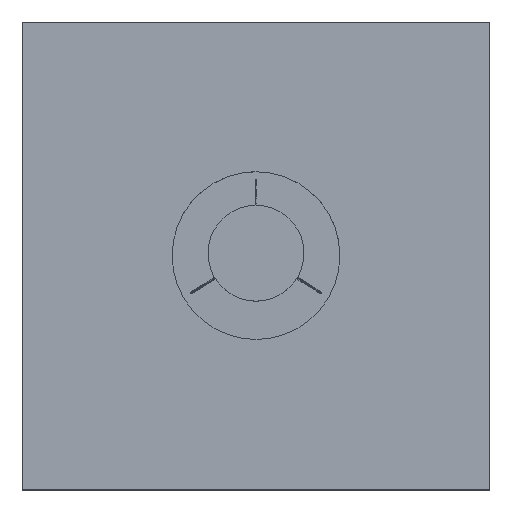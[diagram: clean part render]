
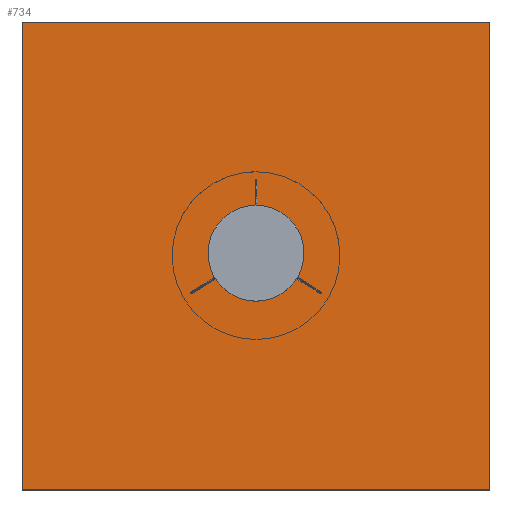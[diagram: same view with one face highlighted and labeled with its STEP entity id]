
A CAD part, top view. The second image highlights one B-rep face of the part: STEP entity #734.
In plain terms, the highlighted planar face has unit normal (0, 0, 1) as drawn and (0, 0, -1) by its records, which use the part's own axes.
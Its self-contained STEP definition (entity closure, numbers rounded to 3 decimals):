
#77=PLANE('',#870);
#113=LINE('',#2094,#142);
#114=LINE('',#2096,#143);
#115=LINE('',#2098,#144);
#116=LINE('',#2099,#145);
#142=VECTOR('',#1075,10.);
#143=VECTOR('',#1076,10.);
#144=VECTOR('',#1077,10.);
#145=VECTOR('',#1078,10.);
#221=FACE_OUTER_BOUND('',#290,.T.);
#290=EDGE_LOOP('',(#654,#655,#656,#657));
#406=VERTEX_POINT('',#2092);
#407=VERTEX_POINT('',#2093);
#408=VERTEX_POINT('',#2095);
#409=VERTEX_POINT('',#2097);
#490=EDGE_CURVE('',#406,#407,#113,.T.);
#491=EDGE_CURVE('',#407,#408,#114,.T.);
#492=EDGE_CURVE('',#408,#409,#115,.T.);
#493=EDGE_CURVE('',#409,#406,#116,.T.);
#654=ORIENTED_EDGE('',*,*,#490,.T.);
#655=ORIENTED_EDGE('',*,*,#491,.T.);
#656=ORIENTED_EDGE('',*,*,#492,.T.);
#657=ORIENTED_EDGE('',*,*,#493,.T.);
#734=ADVANCED_FACE('',(#221),#77,.F.);
#870=AXIS2_PLACEMENT_3D('',#2091,#1073,#1074);
#1073=DIRECTION('center_axis',(0.,0.,1.));
#1074=DIRECTION('ref_axis',(1.,0.,0.));
#1075=DIRECTION('',(1.,0.,0.));
#1076=DIRECTION('',(0.,-1.,0.));
#1077=DIRECTION('',(-1.,0.,0.));
#1078=DIRECTION('',(0.,1.,0.));
#2091=CARTESIAN_POINT('Origin',(0.,0.,
15.));
#2092=CARTESIAN_POINT('',(-195.,195.,15.));
#2093=CARTESIAN_POINT('',(195.,195.,15.));
#2094=CARTESIAN_POINT('',(-195.,195.,15.));
#2095=CARTESIAN_POINT('',(195.,-195.,15.));
#2096=CARTESIAN_POINT('',(195.,195.,15.));
#2097=CARTESIAN_POINT('',(-195.,-195.,15.));
#2098=CARTESIAN_POINT('',(195.,-195.,15.));
#2099=CARTESIAN_POINT('',(-195.,-195.,15.));
